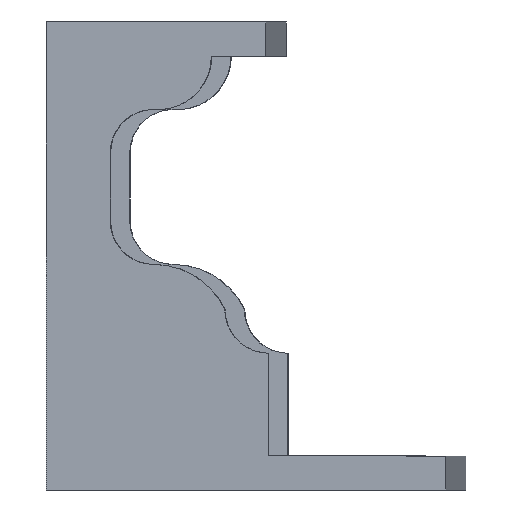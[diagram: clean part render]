
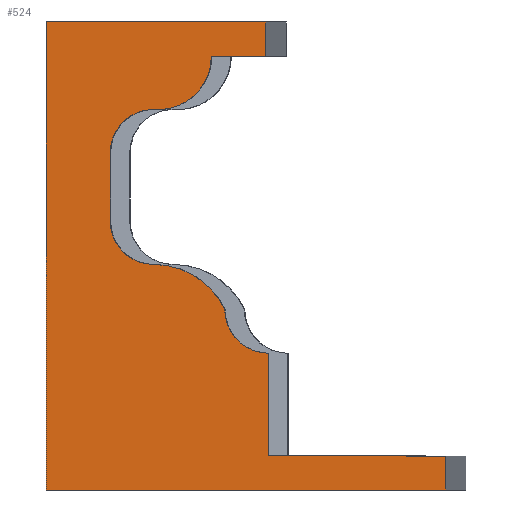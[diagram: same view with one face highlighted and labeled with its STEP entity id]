
A CAD part, left-side view. The second image highlights one B-rep face of the part: STEP entity #524.
In plain terms, the highlighted planar face has unit normal (-1, 0.014, 0).
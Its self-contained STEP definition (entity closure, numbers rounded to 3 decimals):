
#31=CIRCLE('',#571,6.35);
#32=CIRCLE('',#572,11.52);
#33=CIRCLE('',#573,6.35);
#34=CIRCLE('',#574,6.35);
#35=CIRCLE('',#575,7.836);
#50=FACE_OUTER_BOUND('',#77,.T.);
#77=EDGE_LOOP('',(#373,#374,#375,#376,#377,#378,#379,#380,#381,#382,#383,
#384,#385,#386));
#114=LINE('',#802,#172);
#119=LINE('',#812,#177);
#120=LINE('',#814,#178);
#121=LINE('',#822,#179);
#122=LINE('',#828,#180);
#123=LINE('',#830,#181);
#124=LINE('',#832,#182);
#125=LINE('',#834,#183);
#126=LINE('',#835,#184);
#172=VECTOR('',#639,10.);
#177=VECTOR('',#646,10.);
#178=VECTOR('',#649,10.);
#179=VECTOR('',#656,10.);
#180=VECTOR('',#661,10.);
#181=VECTOR('',#662,10.);
#182=VECTOR('',#663,10.);
#183=VECTOR('',#664,10.);
#184=VECTOR('',#665,10.);
#233=VERTEX_POINT('',#799);
#234=VERTEX_POINT('',#801);
#235=VERTEX_POINT('',#805);
#238=VERTEX_POINT('',#810);
#239=VERTEX_POINT('',#815);
#240=VERTEX_POINT('',#817);
#241=VERTEX_POINT('',#819);
#242=VERTEX_POINT('',#821);
#243=VERTEX_POINT('',#823);
#244=VERTEX_POINT('',#825);
#245=VERTEX_POINT('',#827);
#246=VERTEX_POINT('',#829);
#247=VERTEX_POINT('',#831);
#248=VERTEX_POINT('',#833);
#287=EDGE_CURVE('',#233,#234,#114,.T.);
#292=EDGE_CURVE('',#235,#238,#119,.T.);
#293=EDGE_CURVE('',#233,#235,#120,.T.);
#294=EDGE_CURVE('',#238,#239,#31,.T.);
#295=EDGE_CURVE('',#239,#240,#32,.T.);
#296=EDGE_CURVE('',#240,#241,#33,.T.);
#297=EDGE_CURVE('',#241,#242,#121,.T.);
#298=EDGE_CURVE('',#242,#243,#34,.T.);
#299=EDGE_CURVE('',#243,#244,#35,.T.);
#300=EDGE_CURVE('',#244,#245,#122,.T.);
#301=EDGE_CURVE('',#246,#245,#123,.T.);
#302=EDGE_CURVE('',#247,#246,#124,.T.);
#303=EDGE_CURVE('',#247,#248,#125,.T.);
#304=EDGE_CURVE('',#248,#234,#126,.T.);
#373=ORIENTED_EDGE('',*,*,#293,.T.);
#374=ORIENTED_EDGE('',*,*,#292,.T.);
#375=ORIENTED_EDGE('',*,*,#294,.T.);
#376=ORIENTED_EDGE('',*,*,#295,.T.);
#377=ORIENTED_EDGE('',*,*,#296,.T.);
#378=ORIENTED_EDGE('',*,*,#297,.T.);
#379=ORIENTED_EDGE('',*,*,#298,.T.);
#380=ORIENTED_EDGE('',*,*,#299,.T.);
#381=ORIENTED_EDGE('',*,*,#300,.T.);
#382=ORIENTED_EDGE('',*,*,#301,.F.);
#383=ORIENTED_EDGE('',*,*,#302,.F.);
#384=ORIENTED_EDGE('',*,*,#303,.T.);
#385=ORIENTED_EDGE('',*,*,#304,.T.);
#386=ORIENTED_EDGE('',*,*,#287,.F.);
#507=PLANE('',#570);
#524=ADVANCED_FACE('',(#50),#507,.T.);
#570=AXIS2_PLACEMENT_3D('',#813,#647,#648);
#571=AXIS2_PLACEMENT_3D('',#816,#650,#651);
#572=AXIS2_PLACEMENT_3D('',#818,#652,#653);
#573=AXIS2_PLACEMENT_3D('',#820,#654,#655);
#574=AXIS2_PLACEMENT_3D('',#824,#657,#658);
#575=AXIS2_PLACEMENT_3D('',#826,#659,#660);
#639=DIRECTION('',(0.,0.,-1.));
#646=DIRECTION('',(0.,0.,1.));
#647=DIRECTION('center_axis',(-1.,0.014,0.));
#648=DIRECTION('ref_axis',(-0.014,-1.,0.));
#649=DIRECTION('',(0.014,1.,0.001));
#650=DIRECTION('center_axis',(1.,-0.014,0.));
#651=DIRECTION('ref_axis',(0.014,1.,0.));
#652=DIRECTION('center_axis',(-1.,0.014,0.));
#653=DIRECTION('ref_axis',(-0.013,-0.906,0.423));
#654=DIRECTION('center_axis',(1.,-0.014,0.));
#655=DIRECTION('ref_axis',(0.014,1.,0.));
#656=DIRECTION('',(0.,0.,1.));
#657=DIRECTION('center_axis',(1.,-0.014,0.));
#658=DIRECTION('ref_axis',(0.,0.,1.));
#659=DIRECTION('center_axis',(-1.,0.014,0.));
#660=DIRECTION('ref_axis',(0.001,0.081,-0.997));
#661=DIRECTION('',(-0.014,-1.,0.));
#662=DIRECTION('',(0.,0.,-1.));
#663=DIRECTION('',(-0.014,-1.,0.));
#664=DIRECTION('',(0.,0.,-1.));
#665=DIRECTION('',(-0.014,-1.,0.));
#799=CARTESIAN_POINT('',(90.55,182.754,104.338));
#801=CARTESIAN_POINT('',(90.55,182.754,99.365));
#802=CARTESIAN_POINT('',(90.55,182.754,119.4));
#805=CARTESIAN_POINT('',(90.913,208.751,104.365));
#810=CARTESIAN_POINT('',(90.913,208.751,119.4));
#812=CARTESIAN_POINT('',(90.913,208.751,126.678));
#813=CARTESIAN_POINT('Origin',(90.651,190.003,133.955));
#814=CARTESIAN_POINT('',(90.713,194.393,104.35));
#815=CARTESIAN_POINT('',(91.002,215.1,125.75));
#816=CARTESIAN_POINT('Origin',(90.913,208.751,125.75));
#817=CARTESIAN_POINT('',(91.148,225.539,132.4));
#818=CARTESIAN_POINT('Origin',(91.148,225.539,120.88));
#819=CARTESIAN_POINT('',(91.236,231.889,138.75));
#820=CARTESIAN_POINT('Origin',(91.148,225.539,138.75));
#821=CARTESIAN_POINT('',(91.236,231.889,148.75));
#822=CARTESIAN_POINT('',(91.236,231.889,148.75));
#823=CARTESIAN_POINT('',(91.148,225.539,155.1));
#824=CARTESIAN_POINT('Origin',(91.148,225.539,148.75));
#825=CARTESIAN_POINT('',(91.029,217.07,162.91));
#826=CARTESIAN_POINT('Origin',(91.139,224.905,162.91));
#827=CARTESIAN_POINT('',(90.918,209.071,162.91));
#828=CARTESIAN_POINT('',(91.029,217.07,162.91));
#829=CARTESIAN_POINT('',(90.918,209.071,167.91));
#830=CARTESIAN_POINT('',(90.918,209.071,167.91));
#831=CARTESIAN_POINT('',(91.367,241.248,167.91));
#832=CARTESIAN_POINT('',(91.029,217.07,167.91));
#833=CARTESIAN_POINT('',(91.367,241.248,99.365));
#834=CARTESIAN_POINT('',(91.367,241.248,100.));
#835=CARTESIAN_POINT('',(90.913,208.752,99.365));
